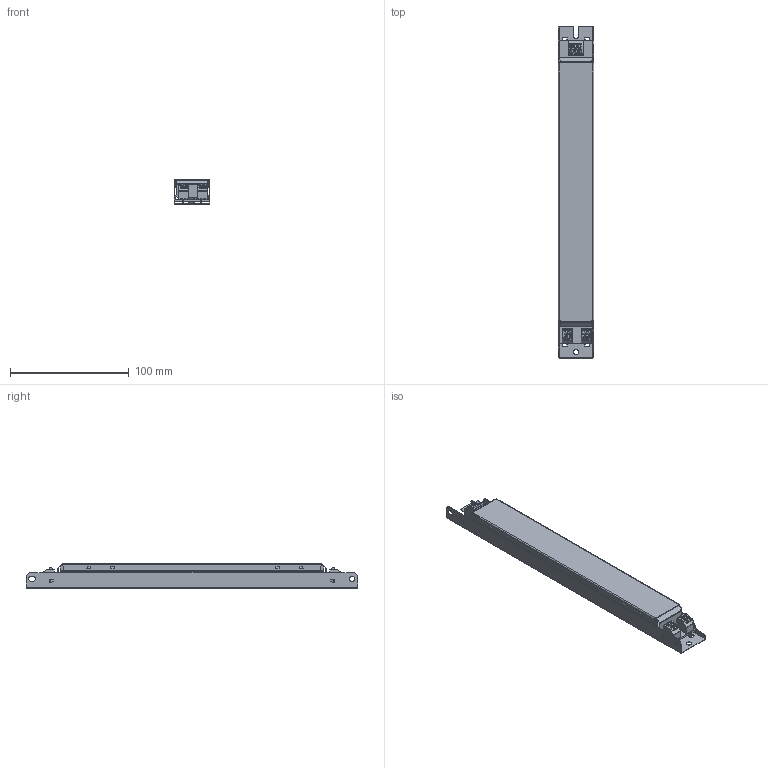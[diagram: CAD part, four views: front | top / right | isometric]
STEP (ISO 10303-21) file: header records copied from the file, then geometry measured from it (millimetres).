
FILE_DESCRIPTION (( 'STEP AP203' ), '1' );
FILE_NAME ('LL1x110-E-CC.STEP', '2015-02-17T11:24:09', ( '' ), ( '' ), 'SwSTEP 2.0', 'SolidWorks 2014', '' );
FILE_SCHEMA (( 'CONFIG_CONTROL_DESIGN' ));
Length unit declared in the file: millimetre
Products named in the file (8): 7660113-1; PCB_75727; WAGO_LIITIN_3N_250_203-1; WAGO_LIITIN_2N_250_202-1; MirrorLIPARE; KANSI_7660114-1; LL1x110-E-CC; LIPARE
Assembly tree (10 placements, depth 2):
  LL1x110-E-CC
    7660113-1
    PCB_75727
    WAGO_LIITIN_3N_250_203-1
    WAGO_LIITIN_2N_250_202-1  x2
    KANSI_7660114-1
    LIPARE  x2
    MirrorLIPARE  x2
Bounding box: 30.08 x 280 x 20.8 mm (x, y, z)
Volume: 28889.2 mm3; surface area: 74028.3 mm2
Topology: 10 solids, 10 shells, 787 faces, 2143 edges, 1383 vertices
Faces by surface type: plane 517, cylinder 228, bspline 28, cone 14
Entity records: 22449 total; most frequent: CARTESIAN_POINT 4657, ORIENTED_EDGE 3620, DIRECTION 3354, EDGE_CURVE 1810, LINE 1378, VECTOR 1378, VERTEX_POINT 1163, AXIS2_PLACEMENT_3D 988
